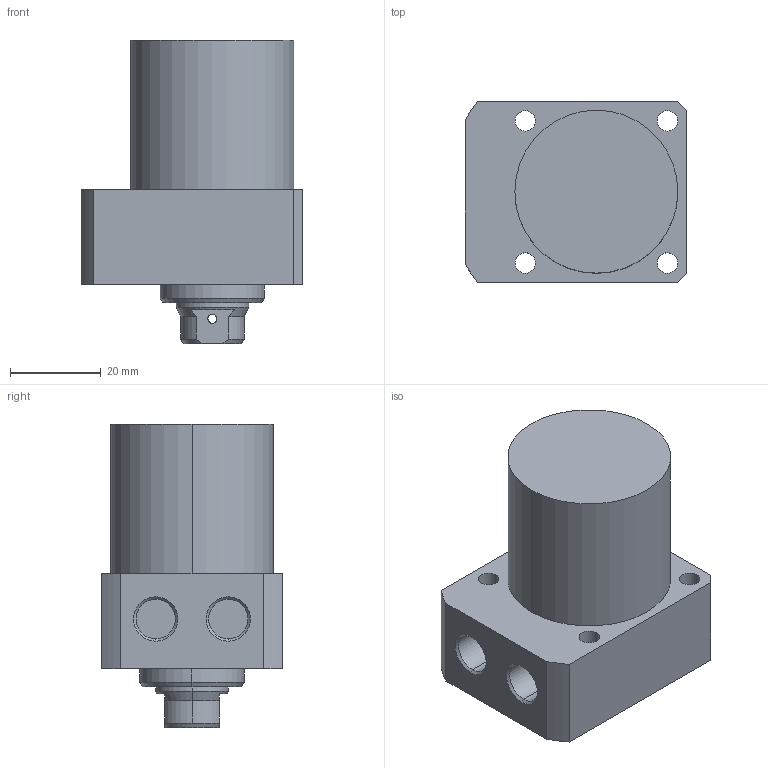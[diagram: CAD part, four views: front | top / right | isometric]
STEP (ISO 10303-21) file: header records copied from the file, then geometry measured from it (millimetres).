
FILE_DESCRIPTION (( 'STEP AP203' ), '1' );
FILE_NAME ('CLLR-036CB-025.STEP', '2019-12-20T00:22:21', ( '' ), ( '' ), 'SwSTEP 2.0', 'SolidWorks 2015', '' );
FILE_SCHEMA (( 'CONFIG_CONTROL_DESIGN' ));
Length unit declared in the file: millimetre
Products named in the file (1): CLLR-036CB-025
Bounding box: 49 x 40 x 67 mm (x, y, z)
Volume: 74271.2 mm3; surface area: 13844.6 mm2
Topology: 1 solids, 1 shells, 67 faces, 161 edges, 102 vertices
Faces by surface type: cylinder 33, plane 19, cone 15
Entity records: 2131 total; most frequent: CARTESIAN_POINT 429, DIRECTION 360, ORIENTED_EDGE 318, EDGE_CURVE 159, AXIS2_PLACEMENT_3D 145, VERTEX_POINT 102, EDGE_LOOP 87, CIRCLE 77
